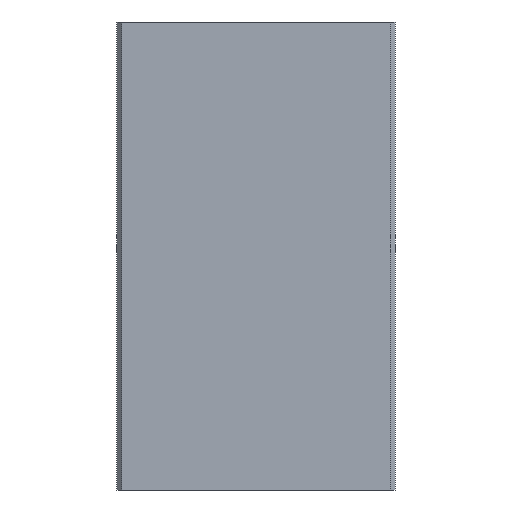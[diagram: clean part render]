
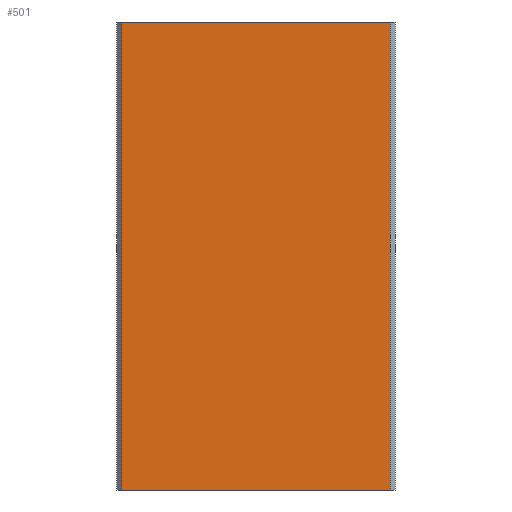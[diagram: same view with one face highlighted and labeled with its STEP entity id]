
A CAD part, left-side view. The second image highlights one B-rep face of the part: STEP entity #501.
In plain terms, the highlighted planar face has unit normal (-1, 0, 0).
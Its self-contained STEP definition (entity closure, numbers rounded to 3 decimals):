
#474=AXIS2_PLACEMENT_3D('Plane Axis2P3D',#471,#472,#473) ;
#304=CARTESIAN_POINT('Line Origine',(-17.5,29.,-50.5)) ;
#308=CARTESIAN_POINT('Vertex',(-17.5,29.,0.)) ;
#310=CARTESIAN_POINT('Vertex',(-17.5,29.,-101.)) ;
#471=CARTESIAN_POINT('Axis2P3D Location',(-17.5,-30.,0.)) ;
#476=CARTESIAN_POINT('Line Origine',(-17.5,0.,0.)) ;
#480=CARTESIAN_POINT('Vertex',(-17.5,-29.,0.)) ;
#483=CARTESIAN_POINT('Line Origine',(-17.5,0.,-101.)) ;
#487=CARTESIAN_POINT('Vertex',(-17.5,-29.,-101.)) ;
#490=CARTESIAN_POINT('Line Origine',(-17.5,-29.,-50.5)) ;
#305=DIRECTION('Vector Direction',(0.,0.,1.)) ;
#472=DIRECTION('Axis2P3D Direction',(-1.,0.,0.)) ;
#473=DIRECTION('Axis2P3D XDirection',(0.,1.,0.)) ;
#477=DIRECTION('Vector Direction',(0.,1.,0.)) ;
#484=DIRECTION('Vector Direction',(0.,1.,0.)) ;
#491=DIRECTION('Vector Direction',(0.,0.,-1.)) ;
#306=VECTOR('Line Direction',#305,1.) ;
#478=VECTOR('Line Direction',#477,1.) ;
#485=VECTOR('Line Direction',#484,1.) ;
#492=VECTOR('Line Direction',#491,1.) ;
#496=ORIENTED_EDGE('',*,*,#482,.F.) ;
#497=ORIENTED_EDGE('',*,*,#312,.T.) ;
#498=ORIENTED_EDGE('',*,*,#489,.T.) ;
#499=ORIENTED_EDGE('',*,*,#494,.F.) ;
#501=ADVANCED_FACE('PartBody',(#500),#475,.T.) ;
#312=EDGE_CURVE('',#309,#311,#307,.F.) ;
#482=EDGE_CURVE('',#309,#481,#479,.F.) ;
#489=EDGE_CURVE('',#311,#488,#486,.F.) ;
#494=EDGE_CURVE('',#481,#488,#493,.T.) ;
#495=EDGE_LOOP('',(#496,#497,#498,#499)) ;
#500=FACE_OUTER_BOUND('',#495,.T.) ;
#307=LINE('Line',#304,#306) ;
#479=LINE('Line',#476,#478) ;
#486=LINE('Line',#483,#485) ;
#493=LINE('Line',#490,#492) ;
#475=PLANE('',#474) ;
#309=VERTEX_POINT('',#308) ;
#311=VERTEX_POINT('',#310) ;
#481=VERTEX_POINT('',#480) ;
#488=VERTEX_POINT('',#487) ;
